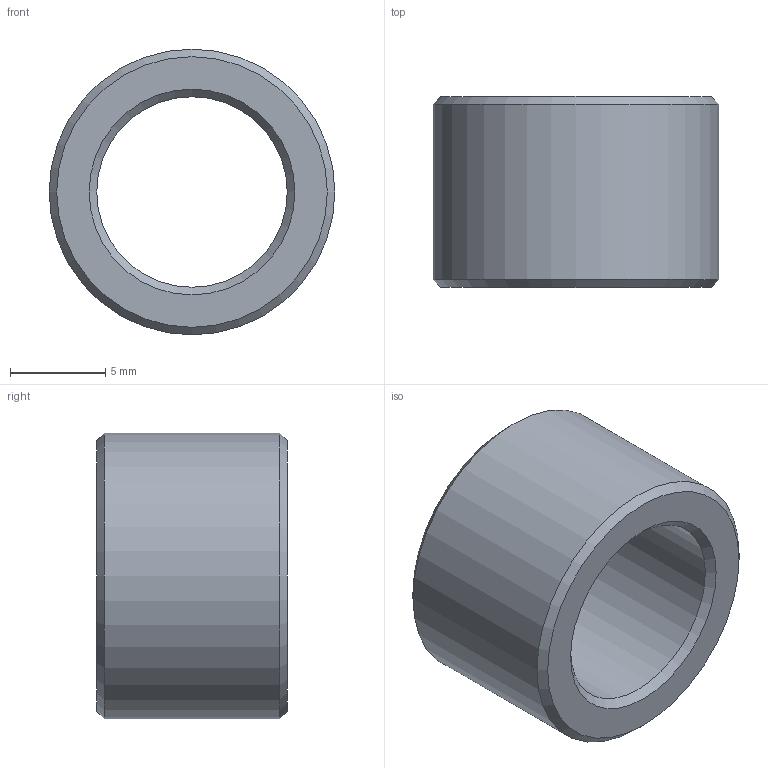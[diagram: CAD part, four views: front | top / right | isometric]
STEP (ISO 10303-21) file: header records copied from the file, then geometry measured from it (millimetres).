
FILE_DESCRIPTION(('Open CASCADE Model'),'2;1');
FILE_NAME('Open CASCADE Shape Model','2026-09-27T02:18:03',('Author'),( 'Open CASCADE'),'Open CASCADE STEP processor 7.9','Open CASCADE 7.9' ,'Unknown');
FILE_SCHEMA(('AUTOMOTIVE_DESIGN { 1 0 10303 214 1 1 1 1 }'));
Length unit declared in the file: millimetre
Products named in the file (1): Open CASCADE STEP translator 7.9 10
Bounding box: 15 x 10 x 15 mm (x, y, z)
Volume: 969.2 mm3; surface area: 944.9 mm2
Topology: 1 solids, 1 shells, 8 faces, 14 edges, 8 vertices
Faces by surface type: cone 4, cylinder 2, plane 2
Full cylindrical faces by diameter (mm): 10 x1, 15 x1
Entity records: 382 total; most frequent: CARTESIAN_POINT 67, DIRECTION 60, ORIENTED_EDGE 28, PCURVE 28, DEFINITIONAL_REPRESENTATION 28, LINE 22, VECTOR 22, AXIS2_PLACEMENT_3D 17
